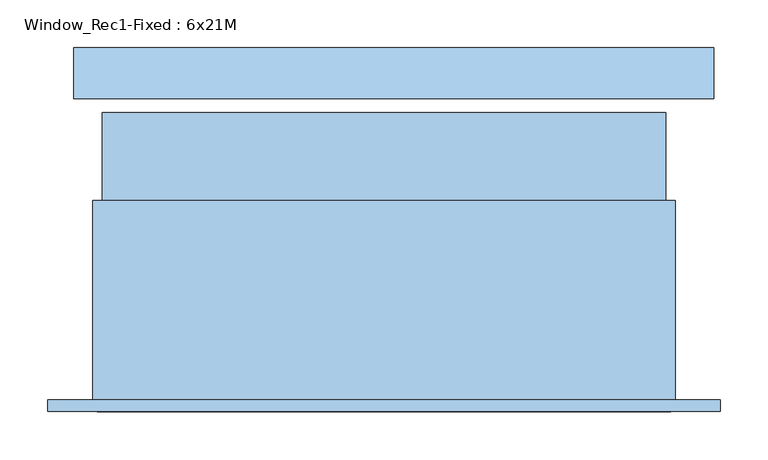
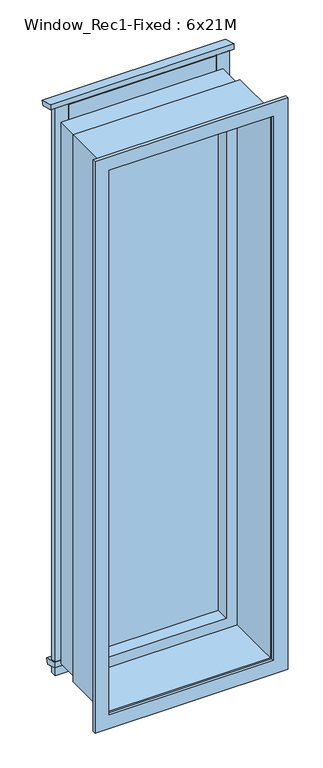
"""IFC4 building model written with IfcOpenShell, lengths in millimetres: window geometry, Window_Rec1-Fixed : 6x21M."""

from ifc_helpers import new_model, si_unit, frame, origin, place, context, project, spatial, polyline, outline, extrude, source, transform, mapped, element, save


def window_rec1_fixed_6x21m_067d04f0(model_context):
    return source(origin(), model_context, "Body", "SweptSolid", [
        extrude(outline(polyline([(220.0508419, 2444.3065207), (215.1332801, 2425.95393), (166.8369888, 2438.8948822), (166.8369888, 2458.5651297), (220.0508419, 2444.3065207)])), frame((-530.0, 0.0, 0.0), z_axis=(1.0, 0.0, 0.0), x_axis=(0.0, 1.0, 0.0)), (0.0, 0.0, 1.0), 670.0),
        extrude(outline(polyline([(215.1332801, 290.6791642), (209.4392611, 269.4287961), (166.8369888, 280.8440405), (166.8369888, 303.6201165), (215.1332801, 290.6791642)])), frame((-516.0, 0.0, 0.0), z_axis=(1.0, 0.0, 0.0), x_axis=(0.0, 1.0, 0.0)), (0.0, 0.0, 1.0), 642.0),
        extrude(outline(polyline([(-465.0, 166.8369888), (-465.0, 188.8369888), (75.0, 188.8369888), (75.0, 166.8369888), (-465.0, 166.8369888)])), frame((0.0, 0.0, 255.0051732), z_axis=(0.0, 0.0, 1.0), x_axis=(1.0, 0.0, 0.0)), (0.0, 0.0, 1.0), 20.0),
        extrude(outline(polyline([(-465.0, 166.8369888), (-465.0, 188.8369888), (75.0, 188.8369888), (75.0, 166.8369888), (-465.0, 166.8369888)])), frame((0.0, 0.0, 2375.0), z_axis=(0.0, 0.0, 1.0), x_axis=(1.0, 0.0, 0.0)), (0.0, 0.0, 1.0), 60.0),
        extrude(outline(polyline([(123.0, 166.8369888), (75.0, 166.8369888), (75.0, 188.8369888), (123.0, 188.8369888), (123.0, 166.8369888)])), frame((0.0, 0.0, 250.0), z_axis=(0.0, 0.0, 1.0), x_axis=(1.0, 0.0, 0.0)), (0.0, 0.0, 1.0), 2189.0),
        extrude(outline(polyline([(-465.0, 166.8369888), (-513.0, 166.8369888), (-513.0, 188.8369888), (-465.0, 188.8369888), (-465.0, 166.8369888)])), frame((0.0, 0.0, 250.0), z_axis=(0.0, 0.0, 1.0), x_axis=(1.0, 0.0, 0.0)), (0.0, 0.0, 1.0), 2189.1537013),
        extrude(outline(polyline([(2390.0, 90.0), (2390.0, -500.0), (300.0, -500.0), (300.0, 90.0), (2390.0, 90.0)]), holes=[polyline([(340.0, 50.0), (340.0, -460.0), (2350.0, -460.0), (2350.0, 50.0), (340.0, 50.0)])]), frame((0.0, 59.8369888, 0.0), z_axis=(0.0, 1.0, 0.0), x_axis=(0.0, 0.0, 1.0)), (0.0, 0.0, 1.0), 92.0),
        extrude(outline(polyline([(50.0, 109.3369888), (-460.0, 109.3369888), (-460.0, 134.3369888), (50.0, 134.3369888), (50.0, 109.3369888)])), frame((0.0, 0.0, 340.0), z_axis=(0.0, 0.0, 1.0), x_axis=(1.0, 0.0, 0.0)), (0.0, 0.0, 1.0), 2010.0),
        extrude(outline(polyline([(2400.0, 100.0), (2400.0, -510.0), (290.0, -510.0), (290.0, 100.0), (2400.0, 100.0)]), holes=[polyline([(300.0, -500.0), (2390.0, -500.0), (2390.0, 90.0), (300.0, 90.0), (300.0, -500.0)])]), frame((0.0, -149.1630112, 0.0), z_axis=(0.0, 1.0, 0.0), x_axis=(0.0, 0.0, 1.0)), (0.0, 0.0, 1.0), 209.0),
        extrude(outline(polyline([(2447.0, 147.0), (2447.0, -557.0), (243.0, -557.0), (243.0, 147.0), (2447.0, 147.0)]), holes=[polyline([(295.0, 95.0), (295.0, -505.0), (2395.0, -505.0), (2395.0, 95.0), (295.0, 95.0)])]), frame((0.0, -161.1630112, 0.0), z_axis=(0.0, 1.0, 0.0), x_axis=(0.0, 0.0, 1.0)), (0.0, 0.0, 1.0), 12.0),
    ])


if __name__ == "__main__":
    model = new_model("IFC4")
    model_context = context("Model", 3, world=origin())
    ifc_project = project(units=[si_unit("LENGTHUNIT", "METRE", prefix="MILLI")], contexts=[model_context])
    site = spatial("IfcSite", under=ifc_project)
    building = spatial("IfcBuilding", under=site)
    placement = place(None, origin())
    window_rec1_fixed_6x21m_shape = window_rec1_fixed_6x21m_067d04f0(model_context)
    element("IfcWindow", 1, ObjectType="Window_Rec1-Fixed : 6x21M", at=placement, inside=building, context=model_context, shape_type="MappedRepresentation", body=[
        mapped(window_rec1_fixed_6x21m_shape, transform((0.0, 0.0, 0.0), x_axis=(1.0, 0.0, 0.0), y_axis=(0.0, 1.0, 0.0), z_axis=(0.0, 0.0, 1.0))),
    ])
    save(model, "model.ifc")
